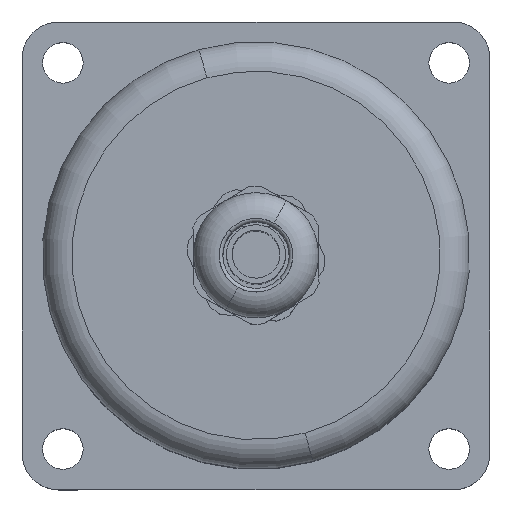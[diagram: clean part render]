
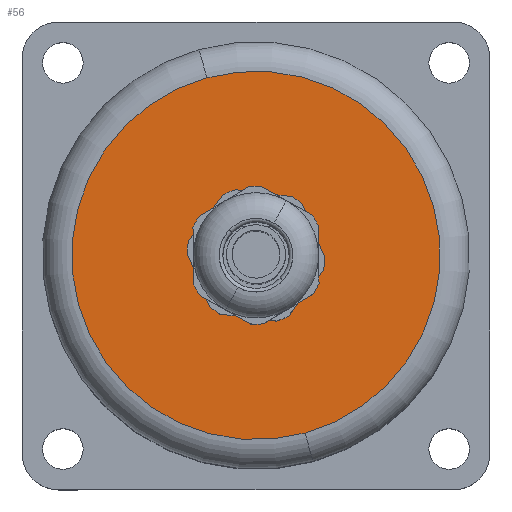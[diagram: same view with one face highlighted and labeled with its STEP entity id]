
A CAD part, top view. The second image highlights one B-rep face of the part: STEP entity #56.
In plain terms, the highlighted planar face has unit normal (0, 0, 1).
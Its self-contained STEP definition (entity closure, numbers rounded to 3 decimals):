
#10 = EDGE_LOOP ( 'NONE', ( #63, #64 ) ) ;
#27 = EDGE_CURVE ( 'NONE', #28, #57, #1372, .T. ) ;
#28 = VERTEX_POINT ( 'NONE', #1380 ) ;
#34 = EDGE_CURVE ( 'NONE', #35, #44, #1427, .T. ) ;
#35 = VERTEX_POINT ( 'NONE', #1441 ) ;
#44 = VERTEX_POINT ( 'NONE', #1716 ) ;
#45 = ORIENTED_EDGE ( 'NONE', *, *, #46, .F. ) ;
#46 = EDGE_CURVE ( 'NONE', #44, #35, #1718, .T. ) ;
#56 = ADVANCED_FACE ( 'NONE', ( #1505, #1507 ), #1526, .F. ) ;
#57 = VERTEX_POINT ( 'NONE', #1537 ) ;
#61 = EDGE_LOOP ( 'NONE', ( #62, #45 ) ) ;
#62 = ORIENTED_EDGE ( 'NONE', *, *, #34, .F. ) ;
#63 = ORIENTED_EDGE ( 'NONE', *, *, #118, .T. ) ;
#64 = ORIENTED_EDGE ( 'NONE', *, *, #27, .T. ) ;
#118 = EDGE_CURVE ( 'NONE', #57, #28, #523, .T. ) ;
#516 = DIRECTION ( 'NONE',  ( -0.266, 0.964, 0. ) ) ;
#517 = DIRECTION ( 'NONE',  ( 0., 0., 1. ) ) ;
#518 = AXIS2_PLACEMENT_3D ( 'NONE', #524, #517, #516 ) ;
#523 = CIRCLE ( 'NONE', #518, 25. ) ;
#524 = CARTESIAN_POINT ( 'NONE',  ( 0., 0., 74.55 ) ) ;
#1357 = AXIS2_PLACEMENT_3D ( 'NONE', #1359, #1358, #1370 ) ;
#1358 = DIRECTION ( 'NONE',  ( 0., 0., 1. ) ) ;
#1359 = CARTESIAN_POINT ( 'NONE',  ( 0., 0., 74.55 ) ) ;
#1370 = DIRECTION ( 'NONE',  ( -0.266, 0.964, 0. ) ) ;
#1372 = CIRCLE ( 'NONE', #1357, 25. ) ;
#1380 = CARTESIAN_POINT ( 'NONE',  ( 6.657, -24.097, 74.55 ) ) ;
#1423 = DIRECTION ( 'NONE',  ( 0.266, -0.964, 0. ) ) ;
#1426 = CARTESIAN_POINT ( 'NONE',  ( 0., 0., 74.55 ) ) ;
#1427 = CIRCLE ( 'NONE', #1428, 7.6 ) ;
#1428 = AXIS2_PLACEMENT_3D ( 'NONE', #1426, #1429, #1423 ) ;
#1429 = DIRECTION ( 'NONE',  ( 0., 0., 1. ) ) ;
#1441 = CARTESIAN_POINT ( 'NONE',  ( 2.024, -7.326, 74.55 ) ) ;
#1505 = FACE_BOUND ( 'NONE', #61, .T. ) ;
#1507 = FACE_OUTER_BOUND ( 'NONE', #10, .T. ) ;
#1526 = PLANE ( 'NONE',  #1539 ) ;
#1537 = CARTESIAN_POINT ( 'NONE',  ( -6.657, 24.097, 74.55 ) ) ;
#1538 = DIRECTION ( 'NONE',  ( 0., 0., -1. ) ) ;
#1539 = AXIS2_PLACEMENT_3D ( 'NONE', #1543, #1538, #1544 ) ;
#1543 = CARTESIAN_POINT ( 'NONE',  ( 0., 0., 74.55 ) ) ;
#1544 = DIRECTION ( 'NONE',  ( -0.266, 0.964, 0. ) ) ;
#1716 = CARTESIAN_POINT ( 'NONE',  ( -2.024, 7.326, 74.55 ) ) ;
#1718 = CIRCLE ( 'NONE', #1723, 7.6 ) ;
#1723 = AXIS2_PLACEMENT_3D ( 'NONE', #1726, #1732, #1740 ) ;
#1726 = CARTESIAN_POINT ( 'NONE',  ( 0., 0., 74.55 ) ) ;
#1732 = DIRECTION ( 'NONE',  ( 0., 0., 1. ) ) ;
#1740 = DIRECTION ( 'NONE',  ( 0.266, -0.964, 0. ) ) ;
